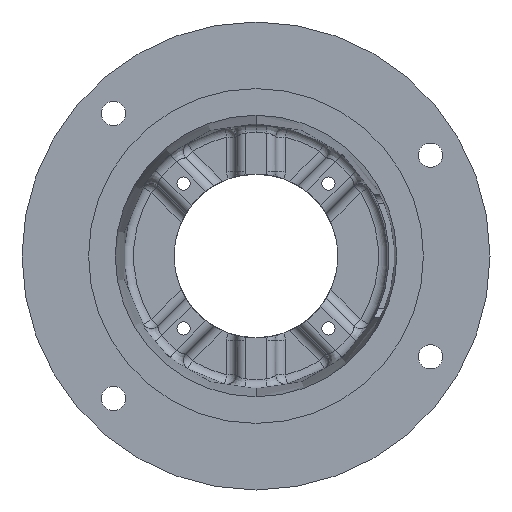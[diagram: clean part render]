
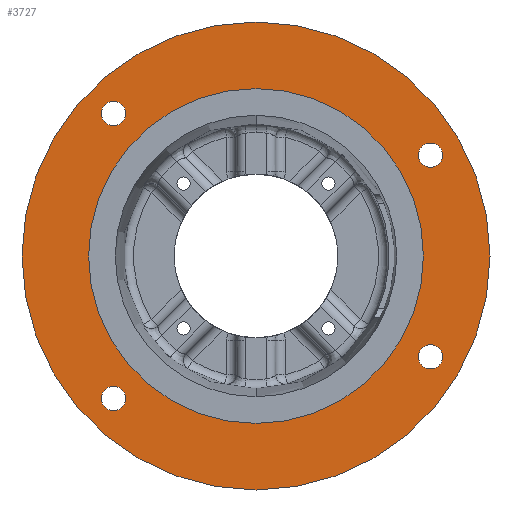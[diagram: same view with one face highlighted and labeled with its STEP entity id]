
A CAD part, front view. The second image highlights one B-rep face of the part: STEP entity #3727.
In plain terms, the highlighted planar face has unit normal (0, -1, 0).
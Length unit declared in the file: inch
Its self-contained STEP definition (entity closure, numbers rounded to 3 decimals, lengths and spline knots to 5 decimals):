
#65 = AXIS2_PLACEMENT_3D ( 'NONE', #3896, #3913, #3139 ) ;
#80 = DIRECTION ( 'NONE',  ( 0., 0., -1. ) ) ;
#82 = DIRECTION ( 'NONE',  ( 0., -1., 0. ) ) ;
#91 = CARTESIAN_POINT ( 'NONE',  ( -2.74004, 0., 2.74004 ) ) ;
#94 = CIRCLE ( 'NONE', #5369, 3.2195 ) ;
#109 = CIRCLE ( 'NONE', #2401, 0.23438 ) ;
#129 = VERTEX_POINT ( 'NONE', #4343 ) ;
#170 = EDGE_CURVE ( 'NONE', #129, #2574, #933, .T. ) ;
#253 = CARTESIAN_POINT ( 'NONE',  ( 3.35585, 0., 2.17188 ) ) ;
#257 = ORIENTED_EDGE ( 'NONE', *, *, #2268, .F. ) ;
#371 = ORIENTED_EDGE ( 'NONE', *, *, #5839, .F. ) ;
#382 = EDGE_CURVE ( 'NONE', #1007, #1857, #2762, .T. ) ;
#406 = ORIENTED_EDGE ( 'NONE', *, *, #2022, .F. ) ;
#451 = EDGE_LOOP ( 'NONE', ( #406, #1440 ) ) ;
#466 = CIRCLE ( 'NONE', #3903, 0.23438 ) ;
#491 = VERTEX_POINT ( 'NONE', #5495 ) ;
#592 = FACE_BOUND ( 'NONE', #4833, .T. ) ;
#665 = CIRCLE ( 'NONE', #4174, 0.23437 ) ;
#889 = AXIS2_PLACEMENT_3D ( 'NONE', #1374, #1371, #1364 ) ;
#920 = EDGE_LOOP ( 'NONE', ( #3956, #1322 ) ) ;
#933 = CIRCLE ( 'NONE', #2349, 0.23438 ) ;
#1007 = VERTEX_POINT ( 'NONE', #5226 ) ;
#1168 = VERTEX_POINT ( 'NONE', #4592 ) ;
#1255 = EDGE_CURVE ( 'NONE', #4949, #2404, #665, .T. ) ;
#1292 = EDGE_CURVE ( 'NONE', #1857, #1007, #4124, .T. ) ;
#1322 = ORIENTED_EDGE ( 'NONE', *, *, #1292, .T. ) ;
#1364 = DIRECTION ( 'NONE',  ( 0., 0., -1. ) ) ;
#1371 = DIRECTION ( 'NONE',  ( 0., -1., 0. ) ) ;
#1374 = CARTESIAN_POINT ( 'NONE',  ( -2.74004, 0., -2.74004 ) ) ;
#1383 = CARTESIAN_POINT ( 'NONE',  ( -2.74004, 0., -2.97441 ) ) ;
#1440 = ORIENTED_EDGE ( 'NONE', *, *, #5777, .F. ) ;
#1554 = DIRECTION ( 'NONE',  ( 0., -1., 0. ) ) ;
#1559 = CARTESIAN_POINT ( 'NONE',  ( -2.74004, 0., 2.74004 ) ) ;
#1573 = DIRECTION ( 'NONE',  ( 0., 0., 1. ) ) ;
#1580 = DIRECTION ( 'NONE',  ( 0., 1., 0. ) ) ;
#1666 = PLANE ( 'NONE',  #5552 ) ;
#1742 = CARTESIAN_POINT ( 'NONE',  ( -2.74004, 0., 2.97441 ) ) ;
#1792 = CARTESIAN_POINT ( 'NONE',  ( -4.5, 0., 0. ) ) ;
#1797 = CARTESIAN_POINT ( 'NONE',  ( 0., 0., 0. ) ) ;
#1857 = VERTEX_POINT ( 'NONE', #2647 ) ;
#1881 = DIRECTION ( 'NONE',  ( 0., -1., 0. ) ) ;
#1891 = FACE_BOUND ( 'NONE', #2377, .T. ) ;
#1928 = DIRECTION ( 'NONE',  ( 0., 0., -1. ) ) ;
#2022 = EDGE_CURVE ( 'NONE', #2755, #1168, #2816, .T. ) ;
#2033 = DIRECTION ( 'NONE',  ( 0., 0., -1. ) ) ;
#2041 = DIRECTION ( 'NONE',  ( 0., -1., 0. ) ) ;
#2044 = CARTESIAN_POINT ( 'NONE',  ( 3.35585, 0., 1.9375 ) ) ;
#2254 = DIRECTION ( 'NONE',  ( 0., 0., -1. ) ) ;
#2255 = AXIS2_PLACEMENT_3D ( 'NONE', #4358, #4352, #4345 ) ;
#2266 = DIRECTION ( 'NONE',  ( 0., -1., 0. ) ) ;
#2268 = EDGE_CURVE ( 'NONE', #5357, #5964, #3664, .T. ) ;
#2271 = CARTESIAN_POINT ( 'NONE',  ( 3.35585, 0., -1.9375 ) ) ;
#2349 = AXIS2_PLACEMENT_3D ( 'NONE', #5835, #5754, #5330 ) ;
#2377 = EDGE_LOOP ( 'NONE', ( #4745, #257 ) ) ;
#2401 = AXIS2_PLACEMENT_3D ( 'NONE', #6229, #6245, #6206 ) ;
#2404 = VERTEX_POINT ( 'NONE', #1383 ) ;
#2451 = EDGE_LOOP ( 'NONE', ( #3224, #3233 ) ) ;
#2574 = VERTEX_POINT ( 'NONE', #253 ) ;
#2595 = EDGE_CURVE ( 'NONE', #5964, #5357, #2823, .T. ) ;
#2647 = CARTESIAN_POINT ( 'NONE',  ( 0., 0., 4.5 ) ) ;
#2679 = EDGE_CURVE ( 'NONE', #3054, #491, #94, .T. ) ;
#2755 = VERTEX_POINT ( 'NONE', #2997 ) ;
#2762 = CIRCLE ( 'NONE', #65, 4.5 ) ;
#2816 = CIRCLE ( 'NONE', #5961, 0.23438 ) ;
#2823 = CIRCLE ( 'NONE', #5025, 0.23438 ) ;
#2997 = CARTESIAN_POINT ( 'NONE',  ( 3.35585, 0., -2.17187 ) ) ;
#3054 = VERTEX_POINT ( 'NONE', #5348 ) ;
#3139 = DIRECTION ( 'NONE',  ( 0., 0., -1. ) ) ;
#3164 = AXIS2_PLACEMENT_3D ( 'NONE', #1559, #1554, #3790 ) ;
#3200 = FACE_BOUND ( 'NONE', #5101, .T. ) ;
#3224 = ORIENTED_EDGE ( 'NONE', *, *, #5430, .F. ) ;
#3233 = ORIENTED_EDGE ( 'NONE', *, *, #1255, .F. ) ;
#3379 = DIRECTION ( 'NONE',  ( 0., 0., -1. ) ) ;
#3381 = AXIS2_PLACEMENT_3D ( 'NONE', #1797, #1881, #1928 ) ;
#3410 = CARTESIAN_POINT ( 'NONE',  ( 0., 0., 0. ) ) ;
#3468 = DIRECTION ( 'NONE',  ( 0., -1., 0. ) ) ;
#3514 = CARTESIAN_POINT ( 'NONE',  ( -2.74004, 0., -2.50566 ) ) ;
#3616 = CIRCLE ( 'NONE', #889, 0.23437 ) ;
#3664 = CIRCLE ( 'NONE', #3164, 0.23438 ) ;
#3727 = ADVANCED_FACE ( 'NONE', ( #3200, #5849, #4508, #1891, #592, #5700 ), #1666, .F. ) ;
#3790 = DIRECTION ( 'NONE',  ( 0., 0., -1. ) ) ;
#3896 = CARTESIAN_POINT ( 'NONE',  ( 0., 0., 0. ) ) ;
#3903 = AXIS2_PLACEMENT_3D ( 'NONE', #2044, #2041, #2033 ) ;
#3913 = DIRECTION ( 'NONE',  ( 0., -1., 0. ) ) ;
#3956 = ORIENTED_EDGE ( 'NONE', *, *, #382, .T. ) ;
#4124 = CIRCLE ( 'NONE', #2255, 4.5 ) ;
#4174 = AXIS2_PLACEMENT_3D ( 'NONE', #4431, #4424, #4422 ) ;
#4343 = CARTESIAN_POINT ( 'NONE',  ( 3.35585, 0., 1.70313 ) ) ;
#4345 = DIRECTION ( 'NONE',  ( 0., 0., -1. ) ) ;
#4352 = DIRECTION ( 'NONE',  ( 0., -1., 0. ) ) ;
#4358 = CARTESIAN_POINT ( 'NONE',  ( 0., 0., 0. ) ) ;
#4422 = DIRECTION ( 'NONE',  ( 0., 0., -1. ) ) ;
#4424 = DIRECTION ( 'NONE',  ( 0., -1., 0. ) ) ;
#4431 = CARTESIAN_POINT ( 'NONE',  ( -2.74004, 0., -2.74004 ) ) ;
#4508 = FACE_BOUND ( 'NONE', #2451, .T. ) ;
#4555 = ORIENTED_EDGE ( 'NONE', *, *, #2679, .F. ) ;
#4589 = CARTESIAN_POINT ( 'NONE',  ( -2.74004, 0., 2.50566 ) ) ;
#4592 = CARTESIAN_POINT ( 'NONE',  ( 3.35585, 0., -1.70312 ) ) ;
#4745 = ORIENTED_EDGE ( 'NONE', *, *, #2595, .F. ) ;
#4833 = EDGE_LOOP ( 'NONE', ( #4555, #371 ) ) ;
#4949 = VERTEX_POINT ( 'NONE', #3514 ) ;
#5014 = CIRCLE ( 'NONE', #3381, 3.2195 ) ;
#5025 = AXIS2_PLACEMENT_3D ( 'NONE', #91, #82, #80 ) ;
#5101 = EDGE_LOOP ( 'NONE', ( #6117, #5175 ) ) ;
#5175 = ORIENTED_EDGE ( 'NONE', *, *, #5294, .F. ) ;
#5226 = CARTESIAN_POINT ( 'NONE',  ( 0., 0., -4.5 ) ) ;
#5294 = EDGE_CURVE ( 'NONE', #2574, #129, #466, .T. ) ;
#5330 = DIRECTION ( 'NONE',  ( 0., 0., -1. ) ) ;
#5348 = CARTESIAN_POINT ( 'NONE',  ( 0., 0., -3.2195 ) ) ;
#5357 = VERTEX_POINT ( 'NONE', #1742 ) ;
#5369 = AXIS2_PLACEMENT_3D ( 'NONE', #3410, #3468, #3379 ) ;
#5430 = EDGE_CURVE ( 'NONE', #2404, #4949, #3616, .T. ) ;
#5495 = CARTESIAN_POINT ( 'NONE',  ( 0., 0., 3.2195 ) ) ;
#5552 = AXIS2_PLACEMENT_3D ( 'NONE', #1792, #1580, #1573 ) ;
#5700 = FACE_OUTER_BOUND ( 'NONE', #920, .T. ) ;
#5754 = DIRECTION ( 'NONE',  ( 0., -1., 0. ) ) ;
#5777 = EDGE_CURVE ( 'NONE', #1168, #2755, #109, .T. ) ;
#5835 = CARTESIAN_POINT ( 'NONE',  ( 3.35585, 0., 1.9375 ) ) ;
#5839 = EDGE_CURVE ( 'NONE', #491, #3054, #5014, .T. ) ;
#5849 = FACE_BOUND ( 'NONE', #451, .T. ) ;
#5961 = AXIS2_PLACEMENT_3D ( 'NONE', #2271, #2266, #2254 ) ;
#5964 = VERTEX_POINT ( 'NONE', #4589 ) ;
#6117 = ORIENTED_EDGE ( 'NONE', *, *, #170, .F. ) ;
#6206 = DIRECTION ( 'NONE',  ( 0., 0., -1. ) ) ;
#6229 = CARTESIAN_POINT ( 'NONE',  ( 3.35585, 0., -1.9375 ) ) ;
#6245 = DIRECTION ( 'NONE',  ( 0., -1., 0. ) ) ;
